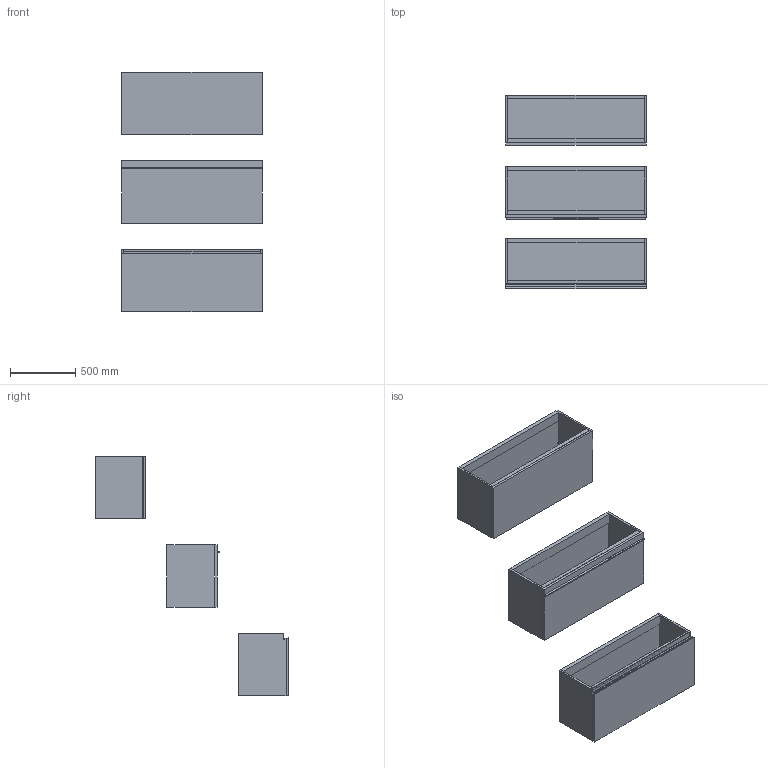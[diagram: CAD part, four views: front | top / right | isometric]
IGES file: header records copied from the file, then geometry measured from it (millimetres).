
Start section: Data from Parasolid IGES Translator 19.0.9, Copyright(c) 2006 Siemens PL M Software. All Rights Reserved.
Global section: file name: noorth-SI-H 48 D 38,8 W 108_8391.igs; native system: By Siemens PLM Incorporated; preprocessor: XPlus GENERIC/IGES 19.0.9; author: Noname; organization: Noname; date: 20200601.101155; units: metre
Bounding box: 1080 x 1485.1 x 1840.01 mm (x, y, z)
Volume: 77163748 mm3; surface area: 11901257 mm2
Topology: 23 solids, 23 shells, 196 faces, 418 edges, 258 vertices
Faces by surface type: plane 152, extrusion 16, bspline 16, cylinder 12
